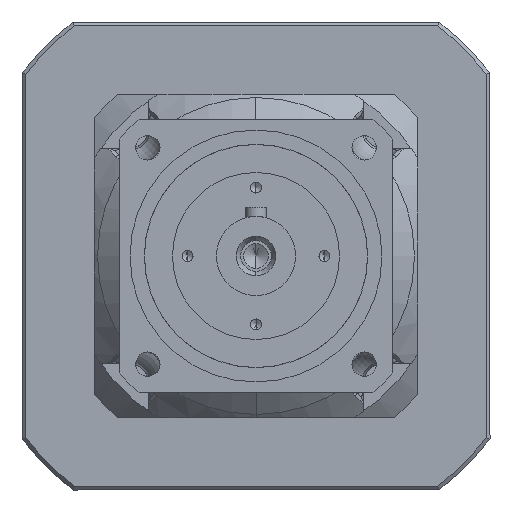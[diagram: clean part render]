
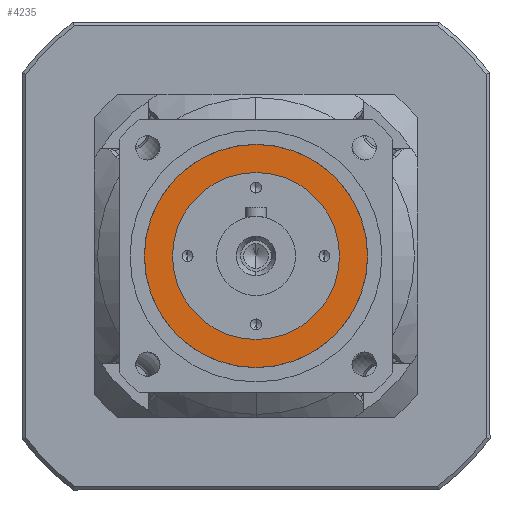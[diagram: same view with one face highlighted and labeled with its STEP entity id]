
A CAD part, left-side view. The second image highlights one B-rep face of the part: STEP entity #4235.
In plain terms, the highlighted planar face has unit normal (-1, 0, 0) as drawn and (0, 0, 1) by its records, which use the part's own axes.
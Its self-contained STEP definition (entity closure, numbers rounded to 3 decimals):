
#3405 = EDGE_CURVE ( 'NONE', #3406, #3463, #11282, .T. ) ;
#3406 = VERTEX_POINT ( 'NONE', #11075 ) ;
#3410 = VERTEX_POINT ( 'NONE', #11068 ) ;
#3414 = VERTEX_POINT ( 'NONE', #11069 ) ;
#3463 = VERTEX_POINT ( 'NONE', #11133 ) ;
#3491 = EDGE_CURVE ( 'NONE', #3410, #3414, #11505, .T. ) ;
#4042 = ORIENTED_EDGE ( 'NONE', *, *, #3405, .T. ) ;
#4044 = EDGE_CURVE ( 'NONE', #3414, #3410, #12664, .T. ) ;
#4051 = EDGE_CURVE ( 'NONE', #3463, #3406, #12657, .T. ) ;
#4075 = ORIENTED_EDGE ( 'NONE', *, *, #4051, .T. ) ;
#4076 = EDGE_LOOP ( 'NONE', ( #4077, #4231 ) ) ;
#4077 = ORIENTED_EDGE ( 'NONE', *, *, #3491, .F. ) ;
#4231 = ORIENTED_EDGE ( 'NONE', *, *, #4044, .F. ) ;
#4232 = EDGE_LOOP ( 'NONE', ( #4042, #4075 ) ) ;
#4235 = ADVANCED_FACE ( 'NONE', ( #12873, #12866 ), #12874, .T. ) ;
#11068 = CARTESIAN_POINT ( 'NONE',  ( -31., 0., 18. ) ) ;
#11069 = CARTESIAN_POINT ( 'NONE',  ( 31., 0., 18. ) ) ;
#11071 = DIRECTION ( 'NONE',  ( -1., 0., 0. ) ) ;
#11072 = AXIS2_PLACEMENT_3D ( 'NONE', #11287, #11292, #11071 ) ;
#11075 = CARTESIAN_POINT ( 'NONE',  ( -23.2, 0., 18. ) ) ;
#11133 = CARTESIAN_POINT ( 'NONE',  ( 23.2, 0., 18. ) ) ;
#11282 = CIRCLE ( 'NONE', #11072, 23.2 ) ;
#11287 = CARTESIAN_POINT ( 'NONE',  ( 0., 0., 18. ) ) ;
#11292 = DIRECTION ( 'NONE',  ( 0., 0., -1. ) ) ;
#11494 = CARTESIAN_POINT ( 'NONE',  ( 0., 0., 18. ) ) ;
#11502 = DIRECTION ( 'NONE',  ( -1., 0., 0. ) ) ;
#11503 = DIRECTION ( 'NONE',  ( 0., 0., -1. ) ) ;
#11504 = AXIS2_PLACEMENT_3D ( 'NONE', #11494, #11503, #11502 ) ;
#11505 = CIRCLE ( 'NONE', #11504, 31. ) ;
#12645 = DIRECTION ( 'NONE',  ( -1., 0., 0. ) ) ;
#12646 = DIRECTION ( 'NONE',  ( 0., 0., -1. ) ) ;
#12647 = AXIS2_PLACEMENT_3D ( 'NONE', #12656, #12646, #12645 ) ;
#12653 = DIRECTION ( 'NONE',  ( -1., 0., 0. ) ) ;
#12654 = DIRECTION ( 'NONE',  ( 0., 0., -1. ) ) ;
#12655 = AXIS2_PLACEMENT_3D ( 'NONE', #12663, #12654, #12653 ) ;
#12656 = CARTESIAN_POINT ( 'NONE',  ( 0., 0., 18. ) ) ;
#12657 = CIRCLE ( 'NONE', #12647, 23.2 ) ;
#12663 = CARTESIAN_POINT ( 'NONE',  ( 0., 0., 18. ) ) ;
#12664 = CIRCLE ( 'NONE', #12655, 31. ) ;
#12857 = DIRECTION ( 'NONE',  ( 1., 0., 0. ) ) ;
#12865 = CARTESIAN_POINT ( 'NONE',  ( 0., 31., 18. ) ) ;
#12866 = FACE_OUTER_BOUND ( 'NONE', #4076, .T. ) ;
#12867 = DIRECTION ( 'NONE',  ( 0., 0., 1. ) ) ;
#12873 = FACE_BOUND ( 'NONE', #4232, .T. ) ;
#12874 = PLANE ( 'NONE',  #12876 ) ;
#12876 = AXIS2_PLACEMENT_3D ( 'NONE', #12865, #12867, #12857 ) ;
